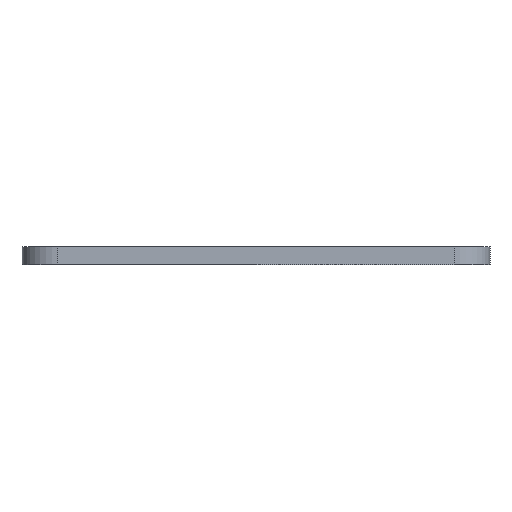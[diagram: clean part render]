
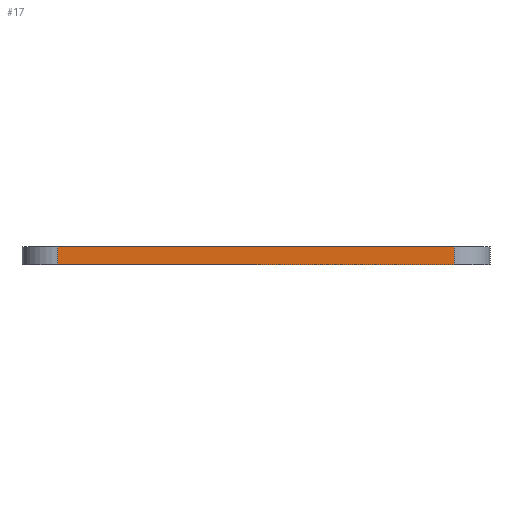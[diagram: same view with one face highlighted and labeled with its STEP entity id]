
A CAD part, left-side view. The second image highlights one B-rep face of the part: STEP entity #17.
In plain terms, the highlighted planar face has unit normal (-1, 0, 0).
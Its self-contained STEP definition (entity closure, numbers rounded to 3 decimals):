
#17 = ADVANCED_FACE('',(#18),#32,.F.);
#18 = FACE_BOUND('',#19,.F.);
#19 = EDGE_LOOP('',(#20,#55,#83,#111));
#20 = ORIENTED_EDGE('',*,*,#21,.F.);
#21 = EDGE_CURVE('',#22,#24,#26,.T.);
#22 = VERTEX_POINT('',#23);
#23 = CARTESIAN_POINT('',(-21.,-11.,1.));
#24 = VERTEX_POINT('',#25);
#25 = CARTESIAN_POINT('',(-21.,11.,1.));
#26 = SURFACE_CURVE('',#27,(#31,#43),.PCURVE_S1.);
#27 = LINE('',#28,#29);
#28 = CARTESIAN_POINT('',(-21.,-13.,1.));
#29 = VECTOR('',#30,1.);
#30 = DIRECTION('',(0.,1.,0.));
#31 = PCURVE('',#32,#37);
#32 = PLANE('',#33);
#33 = AXIS2_PLACEMENT_3D('',#34,#35,#36);
#34 = CARTESIAN_POINT('',(-21.,-13.,0.));
#35 = DIRECTION('',(1.,0.,0.));
#36 = DIRECTION('',(0.,0.,1.));
#37 = DEFINITIONAL_REPRESENTATION('',(#38),#42);
#38 = LINE('',#39,#40);
#39 = CARTESIAN_POINT('',(1.,0.));
#40 = VECTOR('',#41,1.);
#41 = DIRECTION('',(0.,-1.));
#42 = ( GEOMETRIC_REPRESENTATION_CONTEXT(2) 
PARAMETRIC_REPRESENTATION_CONTEXT() REPRESENTATION_CONTEXT('2D SPACE',''
  ) );
#43 = PCURVE('',#44,#49);
#44 = PLANE('',#45);
#45 = AXIS2_PLACEMENT_3D('',#46,#47,#48);
#46 = CARTESIAN_POINT('',(-21.,-13.,1.));
#47 = DIRECTION('',(0.,0.,1.));
#48 = DIRECTION('',(1.,0.,0.));
#49 = DEFINITIONAL_REPRESENTATION('',(#50),#54);
#50 = LINE('',#51,#52);
#51 = CARTESIAN_POINT('',(0.,0.));
#52 = VECTOR('',#53,1.);
#53 = DIRECTION('',(0.,1.));
#54 = ( GEOMETRIC_REPRESENTATION_CONTEXT(2) 
PARAMETRIC_REPRESENTATION_CONTEXT() REPRESENTATION_CONTEXT('2D SPACE',''
  ) );
#55 = ORIENTED_EDGE('',*,*,#56,.F.);
#56 = EDGE_CURVE('',#57,#22,#59,.T.);
#57 = VERTEX_POINT('',#58);
#58 = CARTESIAN_POINT('',(-21.,-11.,0.));
#59 = SURFACE_CURVE('',#60,(#64,#71),.PCURVE_S1.);
#60 = LINE('',#61,#62);
#61 = CARTESIAN_POINT('',(-21.,-11.,0.));
#62 = VECTOR('',#63,1.);
#63 = DIRECTION('',(0.,0.,1.));
#64 = PCURVE('',#32,#65);
#65 = DEFINITIONAL_REPRESENTATION('',(#66),#70);
#66 = LINE('',#67,#68);
#67 = CARTESIAN_POINT('',(0.,-2.));
#68 = VECTOR('',#69,1.);
#69 = DIRECTION('',(1.,0.));
#70 = ( GEOMETRIC_REPRESENTATION_CONTEXT(2) 
PARAMETRIC_REPRESENTATION_CONTEXT() REPRESENTATION_CONTEXT('2D SPACE',''
  ) );
#71 = PCURVE('',#72,#77);
#72 = CYLINDRICAL_SURFACE('',#73,2.);
#73 = AXIS2_PLACEMENT_3D('',#74,#75,#76);
#74 = CARTESIAN_POINT('',(-19.,-11.,0.));
#75 = DIRECTION('',(0.,0.,1.));
#76 = DIRECTION('',(-1.,-0.,0.));
#77 = DEFINITIONAL_REPRESENTATION('',(#78),#82);
#78 = LINE('',#79,#80);
#79 = CARTESIAN_POINT('',(0.,0.));
#80 = VECTOR('',#81,1.);
#81 = DIRECTION('',(0.,1.));
#82 = ( GEOMETRIC_REPRESENTATION_CONTEXT(2) 
PARAMETRIC_REPRESENTATION_CONTEXT() REPRESENTATION_CONTEXT('2D SPACE',''
  ) );
#83 = ORIENTED_EDGE('',*,*,#84,.T.);
#84 = EDGE_CURVE('',#57,#85,#87,.T.);
#85 = VERTEX_POINT('',#86);
#86 = CARTESIAN_POINT('',(-21.,11.,0.));
#87 = SURFACE_CURVE('',#88,(#92,#99),.PCURVE_S1.);
#88 = LINE('',#89,#90);
#89 = CARTESIAN_POINT('',(-21.,-13.,0.));
#90 = VECTOR('',#91,1.);
#91 = DIRECTION('',(0.,1.,0.));
#92 = PCURVE('',#32,#93);
#93 = DEFINITIONAL_REPRESENTATION('',(#94),#98);
#94 = LINE('',#95,#96);
#95 = CARTESIAN_POINT('',(0.,0.));
#96 = VECTOR('',#97,1.);
#97 = DIRECTION('',(0.,-1.));
#98 = ( GEOMETRIC_REPRESENTATION_CONTEXT(2) 
PARAMETRIC_REPRESENTATION_CONTEXT() REPRESENTATION_CONTEXT('2D SPACE',''
  ) );
#99 = PCURVE('',#100,#105);
#100 = PLANE('',#101);
#101 = AXIS2_PLACEMENT_3D('',#102,#103,#104);
#102 = CARTESIAN_POINT('',(-21.,-13.,0.));
#103 = DIRECTION('',(0.,0.,1.));
#104 = DIRECTION('',(1.,0.,0.));
#105 = DEFINITIONAL_REPRESENTATION('',(#106),#110);
#106 = LINE('',#107,#108);
#107 = CARTESIAN_POINT('',(0.,0.));
#108 = VECTOR('',#109,1.);
#109 = DIRECTION('',(0.,1.));
#110 = ( GEOMETRIC_REPRESENTATION_CONTEXT(2) 
PARAMETRIC_REPRESENTATION_CONTEXT() REPRESENTATION_CONTEXT('2D SPACE',''
  ) );
#111 = ORIENTED_EDGE('',*,*,#112,.T.);
#112 = EDGE_CURVE('',#85,#24,#113,.T.);
#113 = SURFACE_CURVE('',#114,(#118,#125),.PCURVE_S1.);
#114 = LINE('',#115,#116);
#115 = CARTESIAN_POINT('',(-21.,11.,0.));
#116 = VECTOR('',#117,1.);
#117 = DIRECTION('',(0.,0.,1.));
#118 = PCURVE('',#32,#119);
#119 = DEFINITIONAL_REPRESENTATION('',(#120),#124);
#120 = LINE('',#121,#122);
#121 = CARTESIAN_POINT('',(0.,-24.));
#122 = VECTOR('',#123,1.);
#123 = DIRECTION('',(1.,0.));
#124 = ( GEOMETRIC_REPRESENTATION_CONTEXT(2) 
PARAMETRIC_REPRESENTATION_CONTEXT() REPRESENTATION_CONTEXT('2D SPACE',''
  ) );
#125 = PCURVE('',#126,#131);
#126 = CYLINDRICAL_SURFACE('',#127,2.);
#127 = AXIS2_PLACEMENT_3D('',#128,#129,#130);
#128 = CARTESIAN_POINT('',(-19.,11.,0.));
#129 = DIRECTION('',(0.,0.,1.));
#130 = DIRECTION('',(-1.,-0.,0.));
#131 = DEFINITIONAL_REPRESENTATION('',(#132),#136);
#132 = LINE('',#133,#134);
#133 = CARTESIAN_POINT('',(-0.,0.));
#134 = VECTOR('',#135,1.);
#135 = DIRECTION('',(-0.,1.));
#136 = ( GEOMETRIC_REPRESENTATION_CONTEXT(2) 
PARAMETRIC_REPRESENTATION_CONTEXT() REPRESENTATION_CONTEXT('2D SPACE',''
  ) );
